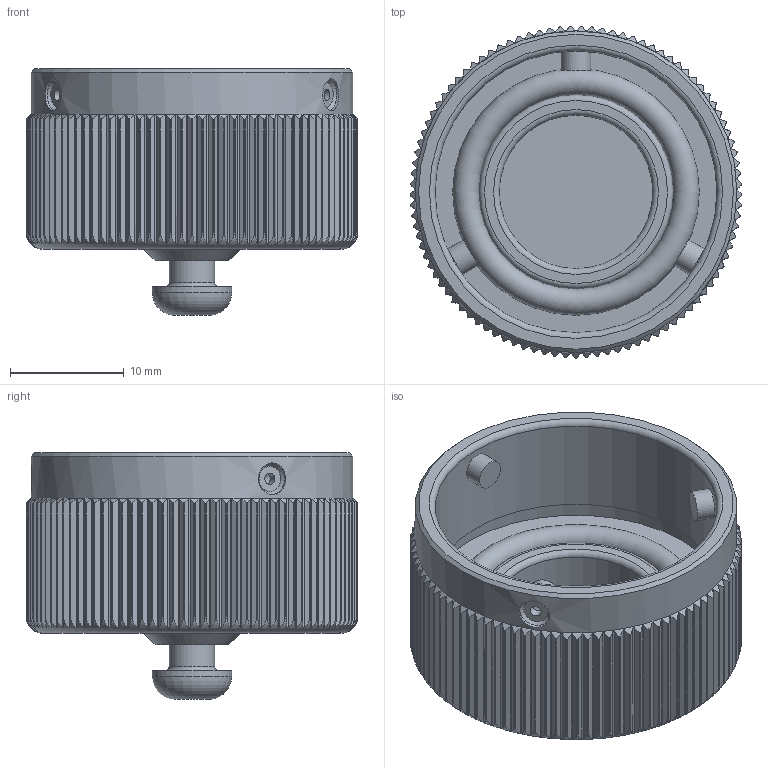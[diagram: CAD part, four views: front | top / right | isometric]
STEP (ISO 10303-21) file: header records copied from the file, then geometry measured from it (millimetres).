
FILE_DESCRIPTION (( 'STEP AP203' ), '1' );
FILE_NAME ('DCARC-14S-D.STEP', '2019-08-21T04:56:44', ( '' ), ( '' ), 'SwSTEP 2.0', 'SolidWorks 2018', '' );
FILE_SCHEMA (( 'CONFIG_CONTROL_DESIGN' ));
Length unit declared in the file: millimetre
Products named in the file (1): DCARC-14S-D
Bounding box: 29.2 x 29.19 x 21.7 mm (x, y, z)
Volume: 4881.5 mm3; surface area: 4395.2 mm2
Topology: 1 solids, 1 shells, 638 faces, 1848 edges, 1228 vertices
Faces by surface type: cylinder 410, plane 212, cone 9, torus 7
Full cylindrical faces by diameter (mm): 1 x3, 2.2 x6, 2.6 x3, 2.8 x3, 4 x1, 7 x1, 13.5 x1, 21.7 x1, 24.8 x1, 26.4 x1, 28.3 x1
Entity records: 26035 total; most frequent: CARTESIAN_POINT 11069, ORIENTED_EDGE 3600, DIRECTION 2344, EDGE_CURVE 1800, VERTEX_POINT 1218, B_SPLINE_CURVE_WITH_KNOTS 976, AXIS2_PLACEMENT_3D 881, EDGE_LOOP 692
